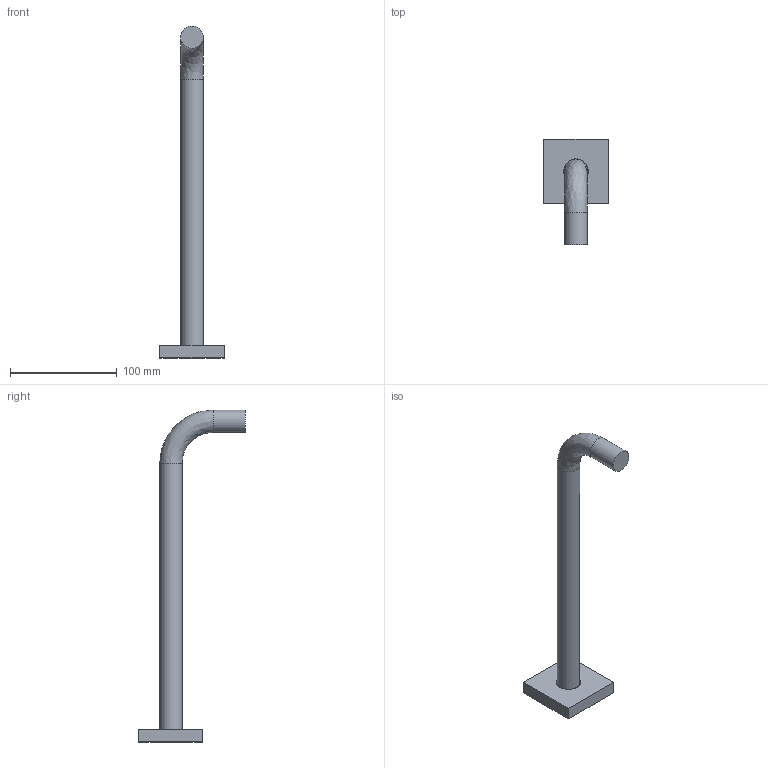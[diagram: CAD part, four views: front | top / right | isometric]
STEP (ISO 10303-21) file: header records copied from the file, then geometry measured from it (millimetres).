
FILE_DESCRIPTION(('STEP AP203'),'2;1');
FILE_NAME('DIS_3D_8107.stp','2020-05-19T12:28:57',(''),(''),'2015.2.119','THINKDESIGN','');
FILE_SCHEMA(('CONFIG_CONTROL_DESIGN'));
Length unit declared in the file: millimetre
Bounding box: 60 x 99.5 x 310.5 mm (x, y, z)
Volume: 163959.3 mm3; surface area: 34487.6 mm2
Topology: 2 solids, 2 shells, 24 faces, 55 edges, 38 vertices
Faces by surface type: plane 15, cylinder 5, bspline 4
Full cylindrical faces by diameter (mm): 21 x2, 22 x1, 25.5 x1, 60 x1
Entity records: 1603 total; most frequent: CARTESIAN_POINT 943, DIRECTION 125, ORIENTED_EDGE 110, EDGE_CURVE 55, AXIS2_PLACEMENT_3D 52, VERTEX_POINT 38, CIRCLE 32, EDGE_LOOP 27
